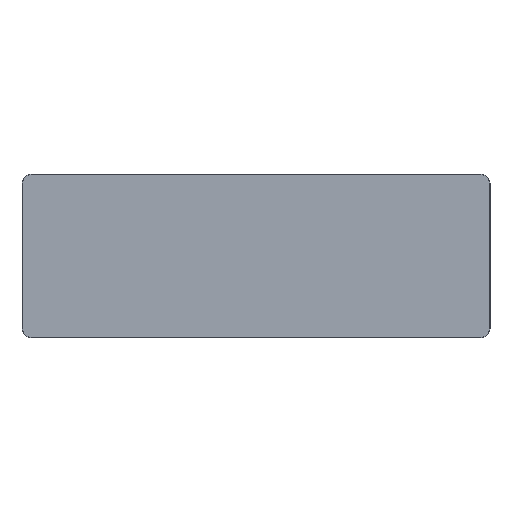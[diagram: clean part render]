
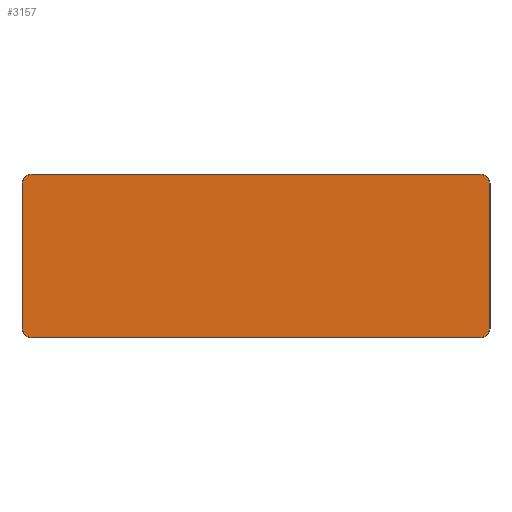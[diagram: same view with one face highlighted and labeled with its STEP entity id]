
A CAD part, top view. The second image highlights one B-rep face of the part: STEP entity #3157.
In plain terms, the highlighted planar face has unit normal (0, 0, 1).
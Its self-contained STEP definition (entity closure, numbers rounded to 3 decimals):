
#79 = AXIS2_PLACEMENT_3D ( 'NONE', #1425, #3320, #1707 ) ;
#80 = DIRECTION ( 'NONE',  ( 0., -1., 0. ) ) ;
#130 = LINE ( 'NONE', #1847, #1355 ) ;
#159 = VERTEX_POINT ( 'NONE', #3303 ) ;
#178 = DIRECTION ( 'NONE',  ( 0., 0., 1. ) ) ;
#184 = CIRCLE ( 'NONE', #844, 19. ) ;
#201 = EDGE_CURVE ( 'NONE', #2823, #657, #261, .T. ) ;
#261 = CIRCLE ( 'NONE', #1211, 19. ) ;
#269 = PLANE ( 'NONE',  #2257 ) ;
#277 = DIRECTION ( 'NONE',  ( 1., 0., 0. ) ) ;
#278 = EDGE_CURVE ( 'NONE', #1474, #159, #184, .T. ) ;
#298 = ORIENTED_EDGE ( 'NONE', *, *, #2095, .T. ) ;
#338 = EDGE_LOOP ( 'NONE', ( #298, #1317, #957, #3388, #3011, #2714, #1874, #3090 ) ) ;
#416 = EDGE_CURVE ( 'NONE', #901, #2501, #3109, .T. ) ;
#439 = VECTOR ( 'NONE', #3228, 1000. ) ;
#471 = CARTESIAN_POINT ( 'NONE',  ( -499., 155., 10. ) ) ;
#554 = CARTESIAN_POINT ( 'NONE',  ( -480., -155., 10. ) ) ;
#657 = VERTEX_POINT ( 'NONE', #1952 ) ;
#837 = DIRECTION ( 'NONE',  ( 1., 0., 0. ) ) ;
#844 = AXIS2_PLACEMENT_3D ( 'NONE', #1839, #3224, #2147 ) ;
#901 = VERTEX_POINT ( 'NONE', #3016 ) ;
#931 = EDGE_CURVE ( 'NONE', #1862, #1697, #1728, .T. ) ;
#957 = ORIENTED_EDGE ( 'NONE', *, *, #2539, .T. ) ;
#964 = FACE_OUTER_BOUND ( 'NONE', #338, .T. ) ;
#1009 = DIRECTION ( 'NONE',  ( 1., 0., 0. ) ) ;
#1211 = AXIS2_PLACEMENT_3D ( 'NONE', #554, #2486, #837 ) ;
#1317 = ORIENTED_EDGE ( 'NONE', *, *, #201, .T. ) ;
#1320 = VECTOR ( 'NONE', #2345, 1000. ) ;
#1355 = VECTOR ( 'NONE', #3461, 1000. ) ;
#1384 = CARTESIAN_POINT ( 'NONE',  ( 499., 155., 10. ) ) ;
#1425 = CARTESIAN_POINT ( 'NONE',  ( 480., -155., 10. ) ) ;
#1474 = VERTEX_POINT ( 'NONE', #1384 ) ;
#1641 = AXIS2_PLACEMENT_3D ( 'NONE', #2618, #178, #1009 ) ;
#1697 = VERTEX_POINT ( 'NONE', #2431 ) ;
#1707 = DIRECTION ( 'NONE',  ( 1., 0., 0. ) ) ;
#1728 = CIRCLE ( 'NONE', #79, 19. ) ;
#1741 = CARTESIAN_POINT ( 'NONE',  ( -480., 174., 10. ) ) ;
#1762 = CARTESIAN_POINT ( 'NONE',  ( -499., -155., 10. ) ) ;
#1839 = CARTESIAN_POINT ( 'NONE',  ( 480., 155., 10. ) ) ;
#1847 = CARTESIAN_POINT ( 'NONE',  ( 499., 155., 10. ) ) ;
#1862 = VERTEX_POINT ( 'NONE', #2243 ) ;
#1874 = ORIENTED_EDGE ( 'NONE', *, *, #1978, .T. ) ;
#1943 = DIRECTION ( 'NONE',  ( 0., 0., 1. ) ) ;
#1952 = CARTESIAN_POINT ( 'NONE',  ( -480., -174., 10. ) ) ;
#1978 = EDGE_CURVE ( 'NONE', #159, #901, #2051, .T. ) ;
#2006 = LINE ( 'NONE', #2943, #439 ) ;
#2051 = LINE ( 'NONE', #1741, #1320 ) ;
#2095 = EDGE_CURVE ( 'NONE', #2501, #2823, #3226, .T. ) ;
#2147 = DIRECTION ( 'NONE',  ( 1., 0., 0. ) ) ;
#2243 = CARTESIAN_POINT ( 'NONE',  ( 480., -174., 10. ) ) ;
#2257 = AXIS2_PLACEMENT_3D ( 'NONE', #3561, #1943, #277 ) ;
#2345 = DIRECTION ( 'NONE',  ( -1., 0., 0. ) ) ;
#2431 = CARTESIAN_POINT ( 'NONE',  ( 499., -155., 10. ) ) ;
#2486 = DIRECTION ( 'NONE',  ( 0., 0., 1. ) ) ;
#2501 = VERTEX_POINT ( 'NONE', #471 ) ;
#2506 = VECTOR ( 'NONE', #80, 1000. ) ;
#2539 = EDGE_CURVE ( 'NONE', #657, #1862, #2006, .T. ) ;
#2618 = CARTESIAN_POINT ( 'NONE',  ( -480., 155., 10. ) ) ;
#2714 = ORIENTED_EDGE ( 'NONE', *, *, #278, .T. ) ;
#2823 = VERTEX_POINT ( 'NONE', #3294 ) ;
#2943 = CARTESIAN_POINT ( 'NONE',  ( 480., -174., 10. ) ) ;
#3011 = ORIENTED_EDGE ( 'NONE', *, *, #3361, .T. ) ;
#3016 = CARTESIAN_POINT ( 'NONE',  ( -480., 174., 10. ) ) ;
#3090 = ORIENTED_EDGE ( 'NONE', *, *, #416, .T. ) ;
#3109 = CIRCLE ( 'NONE', #1641, 19. ) ;
#3157 = ADVANCED_FACE ( 'NONE', ( #964 ), #269, .T. ) ;
#3224 = DIRECTION ( 'NONE',  ( 0., 0., 1. ) ) ;
#3226 = LINE ( 'NONE', #1762, #2506 ) ;
#3228 = DIRECTION ( 'NONE',  ( 1., 0., 0. ) ) ;
#3294 = CARTESIAN_POINT ( 'NONE',  ( -499., -155., 10. ) ) ;
#3303 = CARTESIAN_POINT ( 'NONE',  ( 480., 174., 10. ) ) ;
#3320 = DIRECTION ( 'NONE',  ( 0., 0., 1. ) ) ;
#3361 = EDGE_CURVE ( 'NONE', #1697, #1474, #130, .T. ) ;
#3388 = ORIENTED_EDGE ( 'NONE', *, *, #931, .T. ) ;
#3461 = DIRECTION ( 'NONE',  ( 0., 1., 0. ) ) ;
#3561 = CARTESIAN_POINT ( 'NONE',  ( 0., 0., 10. ) ) ;
